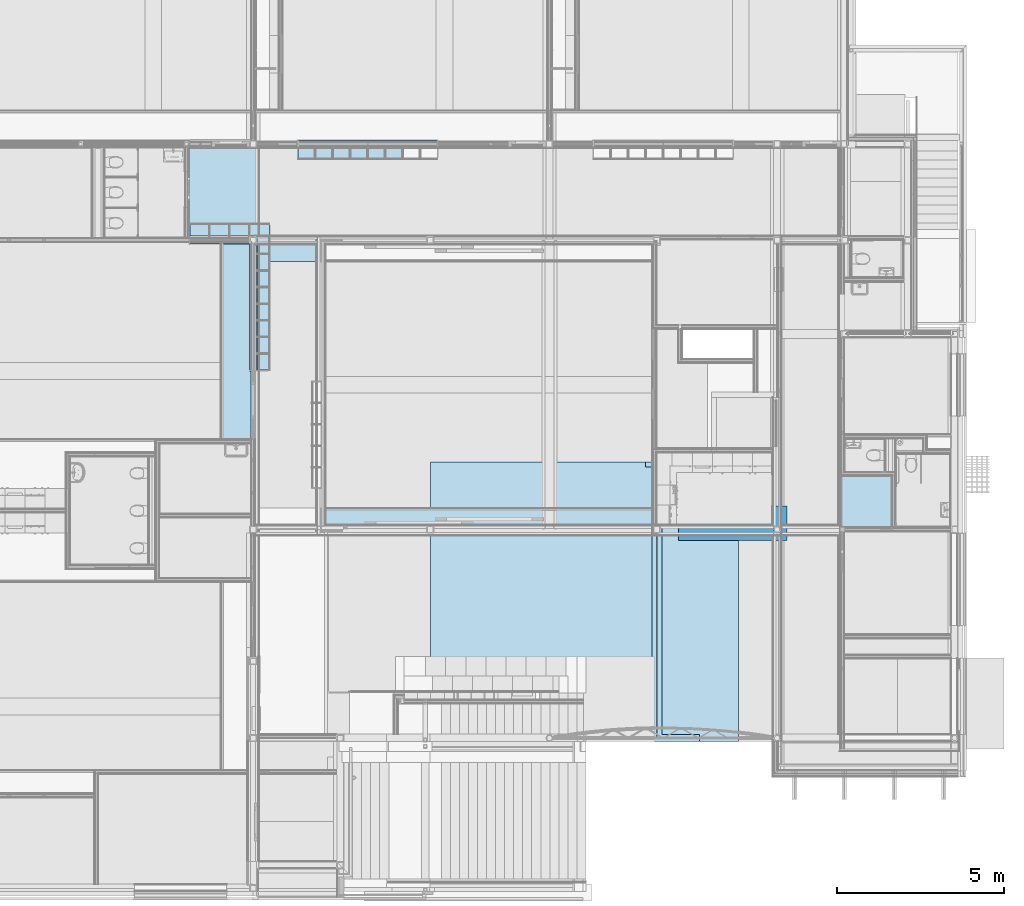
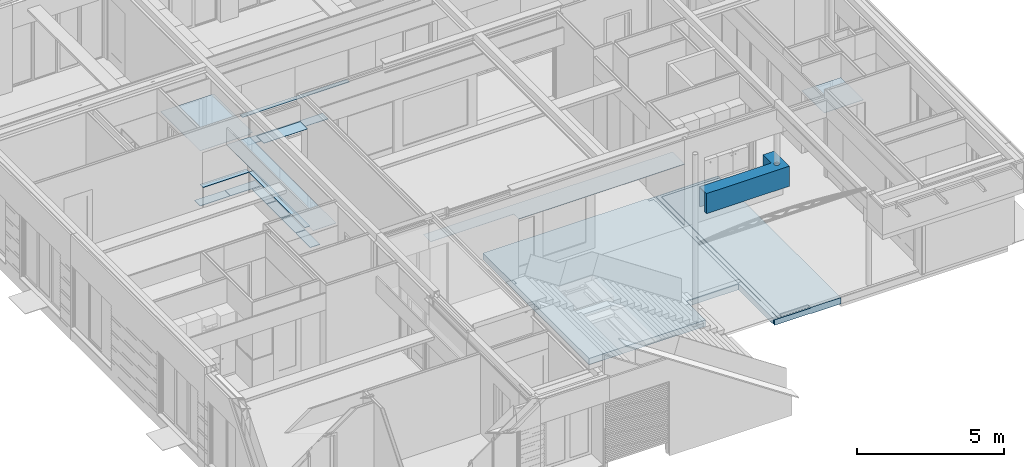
# One storey, part 19 of 165: 19 slabs.
"""IFC2X3 building model written with IfcOpenShell, lengths in millimetres."""

from ifc_helpers import new_model, entity, si_unit, converted_unit, derived_unit, money_unit, direction, frame, origin_with_axes, place, context, subcontext, project, spatial, faceted_brep, material, type_object, element, save


model = new_model("IFC2X3")

# Units and contexts
model_context = context("Model", 3, precision=0.01, world=origin_with_axes(), true_north=direction((0.0, 1.0)))
body_context = subcontext(model_context, "Body", "Model", "MODEL_VIEW")
ifc_project = project(units=[si_unit("LENGTHUNIT", "METRE", prefix="MILLI"), si_unit("AREAUNIT", "SQUARE_METRE"), si_unit("VOLUMEUNIT", "CUBIC_METRE"), converted_unit("PLANEANGLEUNIT", "DEGREE", entity("IfcPlaneAngleMeasure", 0.0174532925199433), si_unit("PLANEANGLEUNIT", "RADIAN"), dimensions=[0, 0, 0, 0, 0, 0, 0]), money_unit("EUR"), converted_unit("TIMEUNIT", "Year", entity("IfcTimeMeasure", 31556926.0), si_unit("TIMEUNIT", "SECOND"), dimensions=[0, 0, 1, 0, 0, 0, 0]), si_unit("MASSUNIT", "GRAM", prefix="KILO"), si_unit("THERMODYNAMICTEMPERATUREUNIT", "DEGREE_CELSIUS"), si_unit("LUMINOUSINTENSITYUNIT", "LUMEN"), si_unit("ENERGYUNIT", "JOULE", prefix="MEGA"), derived_unit("THERMALCONDUCTANCEUNIT", [(si_unit("POWERUNIT", "WATT"), 1), (si_unit("LENGTHUNIT", "METRE"), -1), (si_unit("THERMODYNAMICTEMPERATUREUNIT", "KELVIN"), -1)]), derived_unit("SPECIFICHEATCAPACITYUNIT", [(si_unit("ENERGYUNIT", "JOULE"), 1), (si_unit("MASSUNIT", "GRAM", prefix="KILO"), -1), (si_unit("THERMODYNAMICTEMPERATUREUNIT", "KELVIN"), -1)]), derived_unit("MASSDENSITYUNIT", [(si_unit("MASSUNIT", "GRAM", prefix="KILO"), 1), (si_unit("VOLUMEUNIT", "CUBIC_METRE"), -1)])], contexts=[model_context])

# Site, building, storey
site_placement = place(None, origin_with_axes())
site = spatial("IfcSite", under=ifc_project, at=site_placement, Name="Site", CompositionType="ELEMENT")
building_placement = place(site_placement, origin_with_axes())
building = spatial("IfcBuilding", under=site, at=building_placement, Name="Naam gebouw", CompositionType="ELEMENT")
storey_placement = place(building_placement, origin_with_axes())
storey = spatial("IfcBuildingStorey", under=building, at=storey_placement, Name="Begane grond", CompositionType="ELEMENT", Elevation=0.0)

# Slabs
ifc_material_1 = material(Name="Gipsplaat")
slab_type_1 = type_object("IfcSlabType", Name="Gipsplaat 12", PredefinedType="NOTDEFINED")
slab_1_placement = place(storey_placement, frame((7887.500000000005, 19387.4998112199, 2600.0), z_axis=(0.0, 0.0, 1.0), x_axis=(1.0, 0.0, 0.0)))
element("IfcSlab", 1, at=slab_1_placement, inside=storey, type_object=slab_type_1, material=ifc_material_1, Name="f7 Vormvaste grondstoffen, gebonden met gips_Vloer-x", PredefinedType="NOTDEFINED", context=body_context, shape_type="Brep", body=[
    faceted_brep([(0.0, 0.0, 12.00000000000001), (0.0, 0.0, 0.0), (0.0, -5882.499699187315, 0.0), (0.0, -5882.499699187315, 12.00000000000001), (900.0000000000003, 0.0, 12.00000000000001), (900.0000000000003, 0.0, 0.0), (900.0000000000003, -5882.499773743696, 0.0), (900.0000000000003, -5882.499773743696, 12.00000000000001)], [[[0, 1, 2, 3]], [[4, 5, 1, 0]], [[2, 1, 5, 6]], [[3, 2, 6, 7]], [[4, 0, 3, 7]], [[7, 6, 5, 4]]]),
])
slab_2_placement = place(storey_placement, frame((20775.00160930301, 11444.99880248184, 2600.0), z_axis=(0.0, 0.0, 1.0), x_axis=(1.0, 0.0, 0.0)))
element("IfcSlab", 2, at=slab_2_placement, inside=storey, type_object=slab_type_1, material=ifc_material_1, Name="f7 Vormvaste grondstoffen, gebonden met gips_Vloer-x", PredefinedType="NOTDEFINED", context=body_context, shape_type="Brep", body=[
    faceted_brep([(0.0, 0.0, 12.00000000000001), (0.0, 0.0, 0.0), (-9765.001609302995, 0.0, 0.0), (-9765.001609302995, 0.0, 12.00000000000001), (0.0004365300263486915, -824.9999857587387, 12.00000000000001), (0.0004365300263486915, -824.9999857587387, 0.0), (-6499.99973346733, -824.9999857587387, 0.0), (-6499.99973346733, -500.0000354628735, 0.0), (-9765.001609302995, -500.0000354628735, 0.0), (-9765.001609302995, -500.0000354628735, 12.00000000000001), (-6499.99973346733, -500.0000354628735, 12.00000000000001), (-6499.99973346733, -824.9999857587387, 12.00000000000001)], [[[0, 1, 2, 3]], [[4, 5, 1, 0]], [[2, 1, 5, 6, 7, 8]], [[3, 2, 8, 9]], [[4, 0, 3, 9, 10, 11]], [[11, 6, 5, 4]], [[10, 7, 6, 11]], [[9, 8, 7, 10]]]),
])
slab_3_placement = place(storey_placement, frame((9025.0, 18815.00039292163, 2600.0), z_axis=(0.0, 0.0, 1.0), x_axis=(1.0, 0.0, 0.0)))
element("IfcSlab", 3, at=slab_3_placement, inside=storey, type_object=slab_type_1, material=ifc_material_1, Name="f7 Vormvaste grondstoffen, gebonden met gips_Vloer-x", PredefinedType="NOTDEFINED", context=body_context, shape_type="Brep", body=[
    faceted_brep([(0.0, 0.0, 12.00000000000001), (0.0, 0.0, 0.0), (1715.000000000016, 0.0, 0.0), (1715.000000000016, 0.0, 12.00000000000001), (0.0, 500.0, 12.00000000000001), (0.0, 500.0, 0.0), (1715.000000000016, 500.0, 0.0), (1715.000000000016, 500.0, 12.00000000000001)], [[[0, 1, 2, 3]], [[4, 5, 1, 0]], [[2, 1, 5, 6]], [[3, 2, 6, 7]], [[4, 0, 3, 7]], [[7, 6, 5, 4]]]),
])
slab_4_placement = place(storey_placement, frame((27924.99995201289, 10872.50011055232, 2600.0), z_axis=(0.0, 0.0, 1.0), x_axis=(1.0, 0.0, 0.0)))
element("IfcSlab", 4, at=slab_4_placement, inside=storey, type_object=slab_type_1, material=ifc_material_1, Name="f7 Vormvaste grondstoffen, gebonden met gips_Vloer-x", PredefinedType="NOTDEFINED", context=body_context, shape_type="Brep", body=[
    faceted_brep([(0.0, 0.0, 12.00000000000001), (0.0, 0.0, 0.0), (-0.001011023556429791, 1527.499115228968, 0.0), (-0.001011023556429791, 1527.499115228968, 12.00000000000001), (-1538.99894098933, -0.001018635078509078, 12.00000000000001), (-1538.99894098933, -0.001018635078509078, 0.0), (-1538.999952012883, 1527.49809659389, 0.0), (-1538.999952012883, 1527.49809659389, 12.00000000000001)], [[[0, 1, 2, 3]], [[4, 5, 1, 0]], [[2, 1, 5, 6]], [[3, 2, 6, 7]], [[4, 0, 3, 7]], [[7, 6, 5, 4]]]),
])
slab_5_placement = place(storey_placement, frame((6930.000000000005, 22199.97621406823, 2600.0), z_axis=(0.0, 0.0, 1.0), x_axis=(1.0, 0.0, 0.0)))
element("IfcSlab", 5, at=slab_5_placement, inside=storey, type_object=slab_type_1, material=ifc_material_1, Name="f7 Vormvaste grondstoffen, gebonden met gips_Vloer-x", PredefinedType="NOTDEFINED", context=body_context, shape_type="Brep", body=[
    faceted_brep([(1982.5, -2687.476402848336, 12.00000000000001), (1982.5, -2627.476402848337, 12.00000000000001), (2094.999999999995, -2627.476402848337, 12.00000000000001), (2094.999999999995, 0.0, 12.00000000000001), (0.0, 0.0, 12.00000000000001), (0.0, -2687.476402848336, 12.00000000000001), (1982.5, -2687.476402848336, 0.0), (1982.5, -2627.476402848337, 0.0), (2094.999999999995, -2627.476402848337, 0.0), (2094.999999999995, 0.0, 0.0), (0.0, 0.0, 0.0), (0.0, -2687.476402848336, 0.0)], [[[0, 1, 2, 3, 4, 5]], [[6, 7, 1, 0]], [[7, 8, 2, 1]], [[3, 2, 8, 9]], [[4, 3, 9, 10]], [[5, 4, 10, 11]], [[11, 6, 0, 5]], [[8, 7, 6, 11, 10, 9]]]),
])
ifc_material_2 = material(Name="Beton gewapend prefab vloer")
slab_type_2 = type_object("IfcSlabType", Name="23 Kanaalplaat 260 260", PredefinedType="NOTDEFINED")
slab_6_placement = place(storey_placement, frame((14150.00000000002, 12829.99994039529, -99.99999999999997), z_axis=(0.0, 0.0, 1.0), x_axis=(1.0, 0.0, 0.0)))
element("IfcSlab", 6, at=slab_6_placement, inside=storey, type_object=slab_type_2, material=ifc_material_2, Name="_Vloer-x", PredefinedType="NOTDEFINED", context=body_context, shape_type="Brep", body=[
    faceted_brep([(0.0, -1929.999829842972, 0.0), (0.0, -2109.999829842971, 0.0), (80.0018286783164, -2109.999829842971, 0.0), (80.0018286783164, -1929.999829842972, 0.0), (0.0, -1929.999829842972, -259.9999999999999), (0.0, -2109.999829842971, -259.9999999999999), (80.0018286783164, -2109.999829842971, -259.9999999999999), (80.0018286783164, -1929.999829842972, -259.9999999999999)], [[[0, 1, 2, 3]], [[4, 5, 1, 0]], [[6, 2, 1, 5]], [[7, 3, 2, 6]], [[4, 0, 3, 7]], [[7, 6, 5, 4]]]),
    faceted_brep([(90.00182867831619, -1919.999829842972, 0.0), (90.00182867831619, -2119.999829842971, 0.0), (0.0, -2119.999829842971, 0.0), (0.0, -7199.999940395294, 0.0), (4559.997955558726, -7199.999940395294, 0.0), (4559.997955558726, -5899.999610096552, 0.0), (6609.99793409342, -5899.999610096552, 0.0), (6609.99793409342, -149.9999403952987, 0.0), (6425.00005289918, -149.9999403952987, 0.0), (6425.00005289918, 0.0, 0.0), (0.0, 0.0, 0.0), (0.0, -1919.999829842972, 0.0), (90.00182867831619, -2119.999829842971, -259.9999999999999), (90.00182867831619, -1919.999829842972, -259.9999999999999), (0.0, -2119.999829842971, -259.9999999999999), (0.0, -7199.999940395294, -259.9999999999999), (4559.997955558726, -7199.999940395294, -259.9999999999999), (4559.997955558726, -7199.999940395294, -15.19999999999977), (4504.997955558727, -7199.999940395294, -15.19999999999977), (4504.997955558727, -7199.999940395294, -4.999999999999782), (4559.997955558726, -7199.999940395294, -4.999999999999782), (4559.997955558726, -5899.999610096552, -4.999999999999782), (4639.997955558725, -5899.999940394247, -4.999999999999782), (6609.997929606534, -5899.999940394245, -5.000000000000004), (6609.997929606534, -5809.999940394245, -5.000000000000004), (6609.997930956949, -5809.999940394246, -22.49999999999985), (6609.997934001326, -24.99994039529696, -22.49999999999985), (6609.997929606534, -24.99994039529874, -17.49999999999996), (6609.997929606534, -149.9999403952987, -17.49999999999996), (6425.00005289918, -149.9999403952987, -17.49999999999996), (6425.00005289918, 0.0, -259.9999999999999), (6425.00005289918, 0.0, -242.5000000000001), (6425.00005289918, -14.99994039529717, -242.5000000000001), (6425.00005289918, -14.99994039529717, -17.49999999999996), (6425.00005289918, 0.0, -17.49999999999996), (6425.00005289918, -24.99994039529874, -17.49999999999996), (6425.00005289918, -24.99994039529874, -242.5000000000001), (6425.00005289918, -149.9999403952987, -242.5000000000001), (6425.00005289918, -149.9999403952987, -259.9999999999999), (6609.997929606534, 0.0, -17.49999999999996), (6609.997934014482, 0.0, -22.49999999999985), (6753.747934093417, 0.0, -22.49999999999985), (6753.747934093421, 0.0, -242.5000000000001), (0.0, 0.0, -259.9999999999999), (0.0, -1919.999829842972, -259.9999999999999), (6753.747934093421, -149.9999403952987, -259.9999999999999), (6753.747934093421, -5809.999940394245, -259.9999999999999), (4504.997955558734, -5809.999940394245, -259.9999999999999), (4569.197955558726, -5852.799940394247, -259.9999999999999), (4569.197955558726, -5899.999648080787, -259.9999999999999), (4559.997955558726, -5899.999610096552, -259.9999999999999), (4559.997955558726, -5899.999610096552, -15.19999999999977), (4569.197955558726, -5899.999610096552, -15.19999999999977), (4569.197955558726, -5852.799940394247, -15.19999999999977), (4504.997955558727, -5809.999940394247, -15.19999999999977), (4504.997955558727, -5809.999940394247, -4.999999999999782), (6753.747934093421, -5809.999940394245, -22.49999999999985), (6753.747934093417, -24.99994039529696, -22.49999999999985), (6753.747934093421, -24.99994039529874, -242.5000000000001), (6753.747934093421, -14.99994039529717, -242.5000000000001), (6753.747934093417, -14.99994039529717, -22.49999999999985), (6609.997934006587, -14.99994039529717, -22.49999999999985), (6609.997929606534, -14.99994039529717, -17.49999999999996), (6753.747934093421, -149.9999403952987, -242.5000000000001), (4569.197955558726, -5852.799940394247, -18.99999999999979), (4519.997955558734, -5819.999940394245, -18.99999999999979), (4519.997955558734, -5819.999940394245, -251.0), (4569.197955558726, -5852.799940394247, -251.0), (4575.797955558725, -5857.199940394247, -19.00000000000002), (4639.997955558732, -5899.999940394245, -18.99999999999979), (6609.997929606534, -5899.999940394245, -18.99999999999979), (6609.997929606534, -5819.999940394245, -18.99999999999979), (6609.997930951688, -5819.999940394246, -22.49999999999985), (6753.747934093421, -5819.999940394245, -22.49999999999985), (6753.747934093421, -5819.999940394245, -251.0), (6753.747934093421, -5899.999940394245, -251.0), (6609.997955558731, -5899.999940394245, -251.0), (4639.997955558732, -5899.999940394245, -251.0), (4575.797955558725, -5857.199940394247, -251.0), (4639.997955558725, -5899.999940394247, -15.19999999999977), (4575.797955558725, -5857.199940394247, -15.19999999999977), (6609.997930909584, -5899.999940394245, -22.49999999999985), (4575.797955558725, -5899.999610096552, -15.19999999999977), (4575.797955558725, -5899.999675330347, -259.9999999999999), (4639.997955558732, -5899.999940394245, -259.9999999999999), (6609.997929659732, -8274.999947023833, -22.49999999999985), (6753.747934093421, -8274.999949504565, -22.49999999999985), (6753.747934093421, -5899.999940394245, -259.9999999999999), (6753.747934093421, -8274.999949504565, -242.5000000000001), (6753.747934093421, -8149.999949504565, -242.5000000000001), (6753.747934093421, -8149.999949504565, -259.9999999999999), (6609.997955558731, -5899.999940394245, -259.9999999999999), (4575.797955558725, -5857.199940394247, -259.9999999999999), (6609.997955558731, -8149.999947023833, -242.5000000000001), (6609.997955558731, -8274.999947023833, -242.5000000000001), (6609.997955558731, -8149.999947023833, -259.9999999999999)], [[[0, 1, 2, 3, 4, 5, 6, 7, 8, 9, 10, 11]], [[12, 1, 0, 13]], [[14, 2, 1, 12]], [[3, 2, 14, 15]], [[16, 17, 18, 19, 20, 4, 3, 15]], [[21, 5, 4, 20]], [[21, 22, 23, 6, 5]], [[24, 25, 26, 27, 28, 7, 6, 23]], [[29, 8, 7, 28]], [[30, 31, 32, 33, 34, 9, 8, 29, 35, 36, 37, 38]], [[9, 34, 39, 40, 41, 42, 31, 30, 43, 10]], [[43, 44, 11, 10]], [[13, 0, 11, 44]], [[12, 13, 44, 43, 30, 38, 45, 46, 47, 48, 49, 50, 16, 15, 14]], [[17, 16, 50, 51]], [[17, 51, 52, 53, 54, 18]], [[55, 19, 18, 54]], [[19, 55, 24, 23, 22, 21, 20]], [[46, 56, 25, 24, 55, 54, 47]], [[25, 56, 57, 26]], [[36, 35, 27, 26, 57, 58]], [[35, 29, 28, 27]], [[32, 31, 42, 59]], [[59, 60, 61, 62, 33, 32]], [[34, 33, 62, 39]], [[37, 36, 58, 63]], [[38, 37, 63, 45]], [[62, 61, 40, 39]], [[61, 60, 41, 40]], [[60, 59, 42, 41]], [[45, 63, 58, 57, 56, 46]], [[64, 65, 66, 67, 48, 47, 54, 53]], [[49, 48, 67, 64, 53, 52]], [[51, 50, 49, 52]], [[68, 69, 70, 71, 65, 64]], [[66, 65, 71, 72, 73, 74]], [[67, 66, 74, 75, 76, 77, 78]], [[64, 67, 78, 68]], [[79, 69, 68, 80]], [[77, 76, 81, 70, 69, 79, 82, 83, 84]], [[70, 81, 72, 71]], [[85, 86, 73, 72, 81]], [[87, 75, 74, 73, 86, 88, 89, 90]], [[91, 76, 75, 87]], [[78, 77, 84, 92]], [[92, 83, 82, 80, 68, 78]], [[82, 79, 80]], [[93, 94, 85, 81, 76, 91, 95]], [[83, 92, 84]], [[94, 88, 86, 85]], [[94, 93, 89, 88]], [[93, 95, 90, 89]], [[95, 91, 87, 90]]]),
    faceted_brep([(6766.24793409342, -24.99994039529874, -242.5), (6766.24793409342, -24.99994039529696, -22.49999999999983), (6909.997934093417, -24.99994039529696, -22.49999999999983), (6909.997934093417, -24.99994039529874, -17.50000000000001), (9199.999999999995, -24.99994039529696, -17.50000000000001), (9199.999999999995, -24.99994039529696, -242.5), (6766.24793409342, -8274.99994972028, -22.49999999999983), (6766.24793409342, -149.9999403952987, -242.5), (6766.24793409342, -149.9999403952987, -260.0), (6766.24793409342, -8149.999949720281, -260.0), (6766.24793409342, -8149.999949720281, -242.5), (6766.24793409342, -8274.99994972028, -242.5), (6909.997934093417, -8274.999952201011, -22.49999999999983), (6909.997934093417, -149.9999403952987, 0.0), (6909.997934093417, -149.9999403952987, -17.49999999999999), (6909.997934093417, -8274.999952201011, -17.50000000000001), (6909.997934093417, -8149.99995220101, -17.50000000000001), (6909.997934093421, -8149.99995220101, 0.0), (9199.999999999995, -149.999940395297, -17.49999999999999), (9199.999999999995, -149.999940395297, -242.5), (9199.999999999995, -149.999940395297, 0.0), (9199.999999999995, -8349.999940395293, 0.0), (9199.999999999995, -8349.999940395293, -260.0), (9199.999999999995, -149.999940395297, -260.0), (8025.000055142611, -8149.999971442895, -260.0), (8025.00005169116, -8349.999940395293, -260.0), (8025.000055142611, -8149.999971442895, -242.5), (8025.000052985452, -8274.999971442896, -242.5), (8025.000052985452, -8274.999971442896, -17.50000000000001), (8025.000055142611, -8149.999971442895, -17.50000000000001), (8025.000055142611, -8149.999971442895, 0.0), (8025.00005169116, -8349.999940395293, 0.0), (8025.00005169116, -8349.999940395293, -17.49999999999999), (6609.997955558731, -8349.999940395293, -17.50000000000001), (6609.997955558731, -8349.999940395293, -242.5), (8025.00005169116, -8349.999940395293, -242.5), (8025.000052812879, -8284.999971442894, -242.5), (8025.000052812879, -8284.999971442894, -17.50000000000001), (6609.997955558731, -8284.999947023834, -17.50000000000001), (6609.997955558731, -8284.999947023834, -242.5)], [[[0, 1, 2, 3, 4, 5]], [[6, 1, 0, 7, 8, 9, 10, 11]], [[12, 2, 1, 6]], [[13, 14, 3, 2, 12, 15, 16, 17]], [[4, 3, 14, 18]], [[19, 5, 4, 18, 20, 21, 22, 23]], [[19, 7, 0, 5]], [[23, 8, 7, 19]], [[24, 9, 8, 23, 22, 25]], [[26, 10, 9, 24]], [[27, 11, 10, 26]], [[12, 6, 11, 27, 28, 15]], [[18, 14, 13, 20]], [[29, 16, 15, 28]], [[30, 17, 16, 29]], [[20, 13, 17, 30, 31, 21]], [[31, 32, 33, 34, 35, 25, 22, 21]], [[35, 36, 37, 32, 31, 30, 29, 28, 27, 26, 24, 25]], [[33, 32, 37, 38]], [[39, 34, 33, 38]], [[35, 34, 39, 36]], [[39, 38, 37, 36]]]),
    faceted_brep([(6766.24793409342, 0.0, -242.5), (6766.24793409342, 0.0, -22.49999999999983), (6909.997934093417, 0.0, -22.49999999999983), (6909.997934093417, 0.0, -17.50000000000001), (9199.999999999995, 0.0, -17.50000000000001), (9199.999999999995, 0.0, -242.5), (6766.24793409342, -14.99994039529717, -22.49999999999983), (6766.24793409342, -14.99994039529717, -242.5), (6909.997934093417, -14.9999403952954, -22.49999999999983), (6909.997934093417, -14.99994039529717, -17.50000000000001), (9199.999999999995, -14.99994039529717, -17.50000000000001), (9199.999999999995, -14.99994039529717, -242.5)], [[[0, 1, 2, 3, 4, 5]], [[6, 1, 0, 7]], [[8, 2, 1, 6]], [[8, 9, 3, 2]], [[4, 3, 9, 10]], [[5, 4, 10, 11]], [[11, 7, 0, 5]], [[8, 6, 7, 11, 10, 9]]]),
])
ifc_material_3 = material(Name="Hout - Multiplex")
slab_type_3 = type_object("IfcSlabType", Name="Hout - Multiplex 830", PredefinedType="NOTDEFINED")
slab_7_placement = place(storey_placement, frame((21550.00167438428, 10946.00058782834, 1200.0), z_axis=(0.0, 0.0, 1.0), x_axis=(1.0, 0.0, 0.0)))
element("IfcSlab", 7, at=slab_7_placement, inside=storey, type_object=slab_type_3, material=ifc_material_3, Name="i4 In lagen verlijmd hout_Vloer-x", PredefinedType="NOTDEFINED", context=body_context, shape_type="Brep", body=[
    faceted_brep([(0.0, -326.0017702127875, -829.9999999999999), (0.0, -470.9566820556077, -829.9999999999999), (0.0, -470.9566820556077, 0.0), (0.0, 0.0, 0.0), (0.0, 0.0, -829.9999999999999), (0.0, -1.001771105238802, -829.9999999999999), (6.286057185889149e-05, -1.001771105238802, -50.00000000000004), (6.286057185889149e-05, -326.0017770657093, -50.00000000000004), (3084.997367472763, -326.0017750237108, -829.9999999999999), (3084.997365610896, -313.5017711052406, -829.9999999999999), (3084.997365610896, 558.9971142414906, -829.9999999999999), (2814.997358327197, 558.9971142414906, -829.9999999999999), (2814.997358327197, -1.001762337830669, -829.9999999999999), (2809.997401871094, 0.0, -829.9999999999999), (2809.997401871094, 563.9972844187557, -829.9999999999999), (3249.991446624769, 563.9972844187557, -829.9999999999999), (3249.991446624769, -470.9566820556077, -829.9999999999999), (3249.991446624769, -470.9566820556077, 0.0), (3249.991446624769, 563.9972844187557, 0.0), (2809.997401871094, 563.9972844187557, 0.0), (2809.997401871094, 0.0, 0.0), (2868.521960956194, -188.3615404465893, 0.0), (2857.07047111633, -163.286275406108, 0.0), (2853.147365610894, -136.0004772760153, 0.0), (2857.07047111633, -108.7146791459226, 0.0), (2868.521960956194, -83.63941410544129, 0.0), (2886.574103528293, -62.80613099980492, 0.0), (2909.764421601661, -47.9026185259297, 0.0), (2936.214173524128, -40.13627062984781, 0.0), (2963.78055769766, -40.13627062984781, 0.0), (2990.230309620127, -47.9026185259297, 0.0), (3013.420627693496, -62.80613099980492, 0.0), (3031.472770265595, -83.63941410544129, 0.0), (3042.924260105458, -108.7146791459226, 0.0), (3046.847365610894, -136.0004772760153, 0.0), (3042.924260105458, -163.286275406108, 0.0), (3031.472770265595, -188.3615404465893, 0.0), (3013.420627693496, -209.1948235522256, 0.0), (2990.230309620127, -224.0983360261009, 0.0), (2963.78055769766, -231.8646839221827, 0.0), (2936.214173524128, -231.8646839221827, 0.0), (2909.764421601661, -224.0983360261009, 0.0), (2886.574103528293, -209.1948235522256, 0.0), (2814.997346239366, -1.0017477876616, -50.00000000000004), (2876.245309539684, -74.72614805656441, -50.00000000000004), (2868.521960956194, -83.63941410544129, -50.00000000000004), (2857.07047111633, -108.7146791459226, -50.00000000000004), (2853.147365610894, -136.0004772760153, -50.00000000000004), (2857.07047111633, -163.286275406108, -50.00000000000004), (2868.521960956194, -188.3615404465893, -50.00000000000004), (2886.574103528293, -209.1948235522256, -50.00000000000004), (2909.764421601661, -224.0983360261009, -50.00000000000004), (2936.214173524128, -231.8646839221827, -50.00000000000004), (2963.78055769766, -231.8646839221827, -50.00000000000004), (2990.230309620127, -224.0983360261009, -50.00000000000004), (2996.820996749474, -219.8626780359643, -50.00000000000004), (3084.997370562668, -326.0017770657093, -50.00000000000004), (3084.997365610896, -313.5017711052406, -50.00000000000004), (3084.997365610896, 558.9971142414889, -50.00000000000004), (2814.997346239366, 558.9971142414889, -50.00000000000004), (2886.574103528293, -62.80613099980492, -50.00000000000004), (2909.764421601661, -47.9026185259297, -50.00000000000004), (2936.214173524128, -40.13627062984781, -50.00000000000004), (2963.78055769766, -40.13627062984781, -50.00000000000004), (2990.230309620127, -47.9026185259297, -50.00000000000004), (3013.420627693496, -62.80613099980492, -50.00000000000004), (3031.472770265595, -83.63941410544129, -50.00000000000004), (3042.924260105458, -108.7146791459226, -50.00000000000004), (3046.847365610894, -136.0004772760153, -50.00000000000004), (3042.924260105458, -163.286275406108, -50.00000000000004), (3031.472770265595, -188.3615404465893, -50.00000000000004), (3013.420627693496, -209.1948235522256, -50.00000000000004)], [[[0, 1, 2, 3, 4, 5, 6, 7]], [[1, 0, 8, 9, 10, 11, 12, 5, 4, 13, 14, 15, 16]], [[2, 1, 16, 17]], [[3, 2, 17, 18, 19, 20], [21, 22, 23, 24, 25, 26, 27, 28, 29, 30, 31, 32, 33, 34, 35, 36, 37, 38, 39, 40, 41, 42]], [[13, 4, 3, 20]], [[43, 6, 5, 12]], [[7, 6, 43, 44, 45, 46, 47, 48, 49, 50, 51, 52, 53, 54, 55, 56]], [[0, 7, 56, 8]], [[57, 9, 8, 56]], [[9, 57, 58, 10]], [[59, 11, 10, 58]], [[43, 12, 11, 59]], [[13, 20, 19, 14]], [[14, 19, 18, 15]], [[17, 16, 15, 18]], [[48, 22, 21, 49]], [[22, 48, 47, 23]], [[47, 46, 24, 23]], [[46, 45, 25, 24]], [[45, 44, 60, 26, 25]], [[26, 60, 61, 27]], [[61, 62, 28, 27]], [[62, 63, 29, 28]], [[64, 30, 29, 63]], [[64, 65, 31, 30]], [[65, 66, 32, 31]], [[66, 67, 33, 32]], [[68, 34, 33, 67]], [[68, 69, 35, 34]], [[69, 70, 36, 35]], [[70, 71, 37, 36]], [[54, 38, 37, 71, 55]], [[54, 53, 39, 38]], [[53, 52, 40, 39]], [[52, 51, 41, 40]], [[41, 51, 50, 42]], [[50, 49, 21, 42]], [[43, 59, 58, 57, 56, 55, 71, 70, 69, 68, 67, 66, 65, 64, 63, 62, 61, 60, 44]]]),
])
ifc_material_4 = material(Name="Hout AFW")
slab_type_4 = type_object("IfcSlabType", Name="Hout AFW 18", PredefinedType="NOTDEFINED")
slab_8_placement = place(storey_placement, frame((8135.000015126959, 19950.00381393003, 268.0), z_axis=(0.0, 0.0, 1.0), x_axis=(1.0, 0.0, 0.0)))
element("IfcSlab", 8, at=slab_8_placement, inside=storey, type_object=slab_type_4, material=ifc_material_4, Name="i HOUT_Vloer-x", PredefinedType="NOTDEFINED", context=body_context, shape_type="Brep", body=[
    faceted_brep([(0.0, 0.0, 18.00000000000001), (0.0, 0.0, 0.0), (-1175.000015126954, 0.0, 0.0), (-1175.000015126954, 0.0, 18.00000000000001), (0.0, -380.006513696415, 18.00000000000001), (0.0, -380.006513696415, 0.0), (-1175.000015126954, -380.0065136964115, 0.0), (-1175.000015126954, -380.0065136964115, 18.00000000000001)], [[[0, 1, 2, 3]], [[4, 5, 1, 0]], [[2, 1, 5, 6]], [[3, 2, 6, 7]], [[4, 0, 3, 7]], [[7, 6, 5, 4]]]),
])
slab_9_placement = place(storey_placement, frame((12279.98772010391, 21862.47621406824, 268.0), z_axis=(0.0, 0.0, 1.0), x_axis=(1.0, 0.0, 0.0)))
element("IfcSlab", 9, at=slab_9_placement, inside=storey, type_object=slab_type_4, material=ifc_material_4, Name="i HOUT_Vloer-x", PredefinedType="NOTDEFINED", context=body_context, shape_type="Brep", body=[
    faceted_brep([(0.0, 0.0, 18.00000000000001), (0.0, 0.0, 0.0), (1024.991813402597, 0.0, 0.0), (1024.991813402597, 0.0, 18.00000000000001), (0.0, 380.006513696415, 18.00000000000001), (0.0, 380.006513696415, 0.0), (1024.991813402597, 380.006513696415, 0.0), (1024.991813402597, 380.006513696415, 18.00000000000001)], [[[0, 1, 2, 3]], [[4, 5, 1, 0]], [[2, 1, 5, 6]], [[3, 2, 6, 7]], [[4, 0, 3, 7]], [[7, 6, 5, 4]]]),
])
slab_10_placement = place(storey_placement, frame((9350.004002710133, 17559.9998112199, 268.0), z_axis=(0.0, 0.0, 1.0), x_axis=(1.0, 0.0, 0.0)))
element("IfcSlab", 10, at=slab_10_placement, inside=storey, type_object=slab_type_4, material=ifc_material_4, Name="i HOUT_Vloer-x", PredefinedType="NOTDEFINED", context=body_context, shape_type="Brep", body=[
    faceted_brep([(0.0, 0.0, 18.00000000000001), (0.0, 0.0, 0.0), (0.0, 969.9999984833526, 0.0), (0.0, 969.9999984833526, 18.00000000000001), (-380.006513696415, 0.0, 18.00000000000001), (-380.006513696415, 0.0, 0.0), (-380.006513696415, 969.9999984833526, 0.0), (-380.006513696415, 969.9999984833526, 18.00000000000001)], [[[0, 1, 2, 3]], [[4, 5, 1, 0]], [[2, 1, 5, 6]], [[3, 2, 6, 7]], [[4, 0, 3, 7]], [[7, 6, 5, 4]]]),
])
slab_11_placement = place(storey_placement, frame((9330.000000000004, 19569.99730023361, 268.0), z_axis=(0.0, 0.0, 1.0), x_axis=(1.0, 0.0, 0.0)))
element("IfcSlab", 11, at=slab_11_placement, inside=storey, type_object=slab_type_4, material=ifc_material_4, Name="i HOUT_Vloer-x", PredefinedType="NOTDEFINED", context=body_context, shape_type="Brep", body=[
    faceted_brep([(0.0, 0.0, 18.00000000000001), (0.0, 0.0, 0.0), (0.0, 380.006513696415, 0.0), (0.0, 380.006513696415, 18.00000000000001), (-1174.999984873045, 0.0, 18.00000000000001), (-1174.999984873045, 0.0, 0.0), (-1174.999984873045, 380.0065136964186, 0.0), (-1174.999984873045, 380.0065136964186, 18.00000000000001)], [[[0, 1, 2, 3]], [[4, 5, 1, 0]], [[2, 1, 5, 6]], [[3, 2, 6, 7]], [[4, 0, 3, 7]], [[7, 6, 5, 4]]]),
])
slab_12_placement = place(storey_placement, frame((9350.004002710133, 18549.99980970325, 268.0), z_axis=(0.0, 0.0, 1.0), x_axis=(1.0, 0.0, 0.0)))
element("IfcSlab", 12, at=slab_12_placement, inside=storey, type_object=slab_type_4, material=ifc_material_4, Name="i HOUT_Vloer-x", PredefinedType="NOTDEFINED", context=body_context, shape_type="Brep", body=[
    faceted_brep([(0.0, 0.0, 18.00000000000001), (0.0, 0.0, 0.0), (0.0, 980.0000015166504, 0.0), (0.0, 980.0000015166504, 18.00000000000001), (-380.006513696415, 0.0, 18.00000000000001), (-380.006513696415, 0.0, 0.0), (-380.006513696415, 980.0000015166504, 0.0), (-380.006513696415, 980.0000015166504, 18.00000000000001)], [[[0, 1, 2, 3]], [[4, 5, 1, 0]], [[2, 1, 5, 6]], [[3, 2, 6, 7]], [[4, 0, 3, 7]], [[7, 6, 5, 4]]]),
])
slab_13_placement = place(storey_placement, frame((9350.004002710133, 16569.99981090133, 268.0), z_axis=(0.0, 0.0, 1.0), x_axis=(1.0, 0.0, 0.0)))
element("IfcSlab", 13, at=slab_13_placement, inside=storey, type_object=slab_type_4, material=ifc_material_4, Name="i HOUT_Vloer-x", PredefinedType="NOTDEFINED", context=body_context, shape_type="Brep", body=[
    faceted_brep([(0.0, 0.0, 18.00000000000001), (0.0, 0.0, 0.0), (0.0, 970.0000003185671, 0.0), (0.0, 970.0000003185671, 18.00000000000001), (-380.006513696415, 0.0, 18.00000000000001), (-380.006513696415, 0.0, 0.0), (-380.006513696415, 970.0000003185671, 0.0), (-380.006513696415, 970.0000003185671, 18.00000000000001)], [[[0, 1, 2, 3]], [[4, 5, 1, 0]], [[2, 1, 5, 6]], [[3, 2, 6, 7]], [[4, 0, 3, 7]], [[7, 6, 5, 4]]]),
])
slab_14_placement = place(storey_placement, frame((8969.997489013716, 15569.9998112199, 268.0), z_axis=(0.0, 0.0, 1.0), x_axis=(1.0, 0.0, 0.0)))
element("IfcSlab", 14, at=slab_14_placement, inside=storey, type_object=slab_type_4, material=ifc_material_4, Name="i HOUT_Vloer-x", PredefinedType="NOTDEFINED", context=body_context, shape_type="Brep", body=[
    faceted_brep([(0.0, 0.0, 18.00000000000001), (0.0, 0.0, 0.0), (380.006513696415, 0.0, 0.0), (380.006513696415, 0.0, 18.00000000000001), (0.0, 979.9999996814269, 18.00000000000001), (0.0, 979.9999996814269, 0.0), (380.0065136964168, 979.9999996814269, 0.0), (380.0065136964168, 979.9999996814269, 18.00000000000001)], [[[0, 1, 2, 3]], [[4, 5, 1, 0]], [[2, 1, 5, 6]], [[3, 2, 6, 7]], [[4, 0, 3, 7]], [[7, 6, 5, 4]]]),
])
slab_15_placement = place(storey_placement, frame((11234.99590670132, 21862.47621406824, 268.0), z_axis=(0.0, 0.0, 1.0), x_axis=(1.0, 0.0, 0.0)))
element("IfcSlab", 15, at=slab_15_placement, inside=storey, type_object=slab_type_4, material=ifc_material_4, Name="i HOUT_Vloer-x", PredefinedType="NOTDEFINED", context=body_context, shape_type="Brep", body=[
    faceted_brep([(0.0, 0.0, 18.00000000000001), (0.0, 0.0, 0.0), (1024.991813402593, 0.0, 0.0), (1024.991813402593, 0.0, 18.00000000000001), (0.0, 380.006513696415, 18.00000000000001), (0.0, 380.006513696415, 0.0), (1024.991813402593, 380.006513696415, 0.0), (1024.991813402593, 380.006513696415, 18.00000000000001)], [[[0, 1, 2, 3]], [[4, 5, 1, 0]], [[2, 1, 5, 6]], [[3, 2, 6, 7]], [[4, 0, 3, 7]], [[7, 6, 5, 4]]]),
])
slab_16_placement = place(storey_placement, frame((10190.00000000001, 22242.48272776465, 268.0), z_axis=(0.0, 0.0, 1.0), x_axis=(1.0, 0.0, 0.0)))
element("IfcSlab", 16, at=slab_16_placement, inside=storey, type_object=slab_type_4, material=ifc_material_4, Name="i HOUT_Vloer-x", PredefinedType="NOTDEFINED", context=body_context, shape_type="Brep", body=[
    faceted_brep([(0.0, 0.0, 18.00000000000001), (0.0, 0.0, 0.0), (0.0, -380.006513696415, 0.0), (0.0, -380.006513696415, 18.00000000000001), (1024.995906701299, 0.0, 18.00000000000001), (1024.995906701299, 0.0, 0.0), (1024.995906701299, -380.006513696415, 0.0), (1024.995906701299, -380.006513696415, 18.00000000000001)], [[[0, 1, 2, 3]], [[4, 5, 1, 0]], [[2, 1, 5, 6]], [[3, 2, 6, 7]], [[4, 0, 3, 7]], [[7, 6, 5, 4]]]),
])
slab_type_5 = type_object("IfcSlabType", Name="Hout - Multiplex 20", PredefinedType="NOTDEFINED")
slab_17_placement = place(storey_placement, frame((8750.000000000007, 19337.49981121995, 1200.0), z_axis=(0.0, 0.0, 1.0), x_axis=(1.0, 0.0, 0.0)))
element("IfcSlab", 17, at=slab_17_placement, inside=storey, type_object=slab_type_5, material=ifc_material_3, Name="i4 In lagen verlijmd hout_Vloer-x", PredefinedType="NOTDEFINED", context=body_context, shape_type="Brep", body=[
    faceted_brep([(0.0, 0.0, 0.0), (0.0, 0.0, -20.00000000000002), (0.0, 212.4999999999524, -20.00000000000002), (0.0, 212.4999999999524, 0.0), (-1809.999946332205, 0.0, 0.0), (-1809.999946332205, 0.0, -20.00000000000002), (-1809.999946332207, 212.4999999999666, -20.00000000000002), (-1809.999946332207, 212.4999999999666, 0.0)], [[[0, 1, 2, 3]], [[4, 5, 1, 0]], [[2, 1, 5, 6]], [[3, 2, 6, 7]], [[4, 0, 3, 7]], [[7, 6, 5, 4]]]),
])
slab_18_placement = place(storey_placement, frame((8737.50033355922, 19349.9998112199, 1200.0), z_axis=(0.0, 0.0, 1.0), x_axis=(1.0, 0.0, 0.0)))
element("IfcSlab", 18, at=slab_18_placement, inside=storey, type_object=slab_type_5, material=ifc_material_3, Name="i4 In lagen verlijmd hout_Vloer-x", PredefinedType="NOTDEFINED", context=body_context, shape_type="Brep", body=[
    faceted_brep([(0.0, 0.0, 0.0), (0.0, 0.0, -20.00000000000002), (0.0, -3800.004002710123, -20.00000000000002), (0.0, -3800.004002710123, 0.0), (212.4996664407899, 0.0, 0.0), (212.4996664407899, 0.0, -20.00000000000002), (212.4996664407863, -3800.004002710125, -20.00000000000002), (212.4996664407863, -3800.004002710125, 0.0)], [[[0, 1, 2, 3]], [[4, 5, 1, 0]], [[2, 1, 5, 6]], [[3, 2, 6, 7]], [[4, 0, 3, 7]], [[7, 6, 5, 4]]]),
])
slab_19_placement = place(storey_placement, frame((14370.00000000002, 22437.47925041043, 1200.000000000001), z_axis=(0.0, 0.0, 1.0), x_axis=(1.0, 0.0, 0.0)))
element("IfcSlab", 19, at=slab_19_placement, inside=storey, type_object=slab_type_5, material=ifc_material_3, Name="i4 In lagen verlijmd hout_Vloer-x", PredefinedType="NOTDEFINED", context=body_context, shape_type="Brep", body=[
    faceted_brep([(0.0, 0.0, 0.0), (0.0, 0.0, -20.00000000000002), (-4199.99990469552, 0.0, -20.00000000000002), (-4199.99990469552, 0.0, 0.0), (0.0, -174.9999999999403, 0.0), (0.0, -174.9999999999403, -20.00000000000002), (-4199.99990469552, -174.9999999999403, -20.00000000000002), (-4199.99990469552, -174.9999999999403, 0.0)], [[[0, 1, 2, 3]], [[4, 5, 1, 0]], [[2, 1, 5, 6]], [[3, 2, 6, 7]], [[4, 0, 3, 7]], [[7, 6, 5, 4]]]),
])

save(model, "model.ifc")
